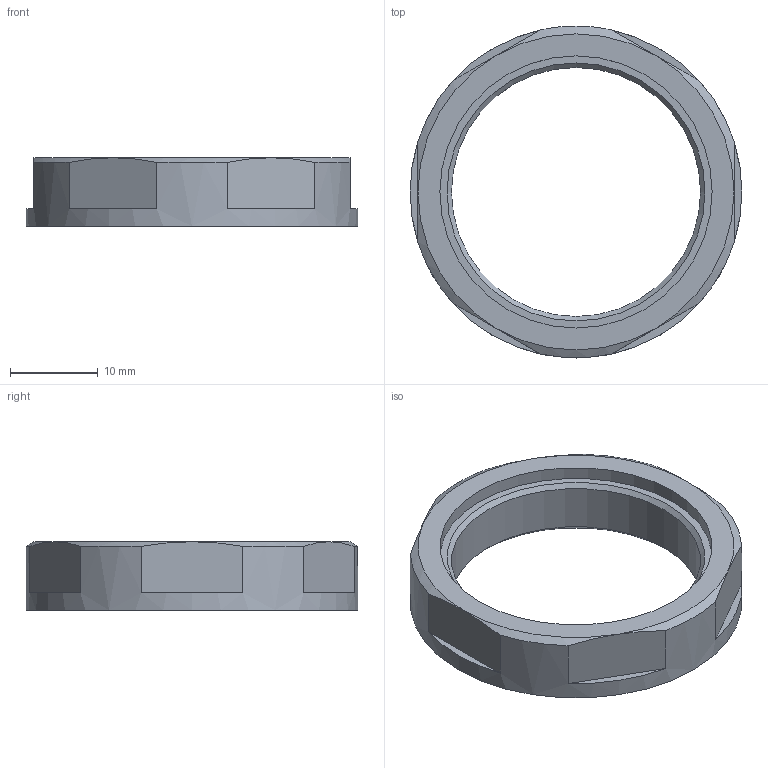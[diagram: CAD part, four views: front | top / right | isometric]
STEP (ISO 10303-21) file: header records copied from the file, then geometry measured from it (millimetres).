
FILE_DESCRIPTION((''),'2;1');
FILE_NAME('K:\ZEICHNG\webgrafik.intern\Air-Techniques Befestigungen und Behälter\step\C.00-34.stp','2013-06-18T11:44:21',('RJanz'),(''),'Autodesk Inventor 2013','Autodesk Inventor 2013','');
FILE_SCHEMA(('CONFIG_CONTROL_DESIGN'));
Length unit declared in the file: millimetre
Products named in the file (1): 10002977
Bounding box: 37.8 x 37.8 x 7.8 mm (x, y, z)
Volume: 3166.3 mm3; surface area: 2801.4 mm2
Topology: 1 solids, 1 shells, 93 faces, 260 edges, 171 vertices
Faces by surface type: plane 80, cone 10, cylinder 3
Full cylindrical faces by diameter (mm): 28.376 x1, 31 x1, 37.8 x1
Entity records: 2924 total; most frequent: CARTESIAN_POINT 598, ORIENTED_EDGE 498, DIRECTION 484, EDGE_CURVE 249, AXIS2_PLACEMENT_3D 185, VERTEX_POINT 167, VECTOR 114, LINE 114
